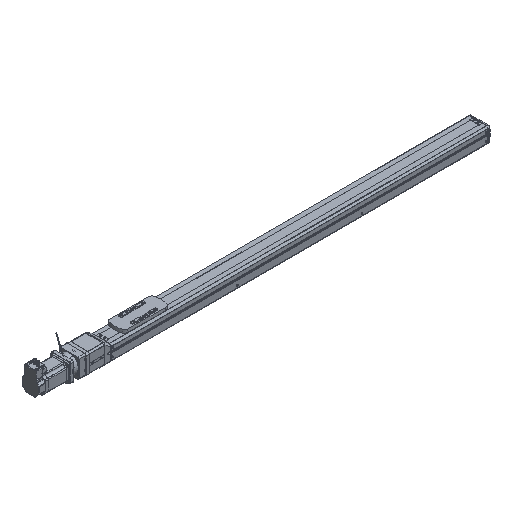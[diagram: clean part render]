
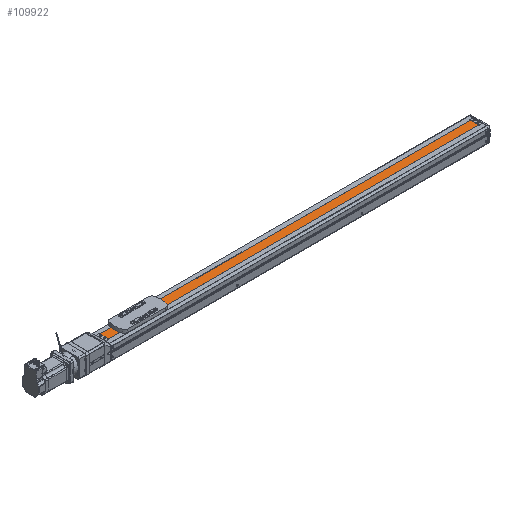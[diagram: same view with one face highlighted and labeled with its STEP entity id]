
A CAD part, isometric view. The second image highlights one B-rep face of the part: STEP entity #109922.
In plain terms, the highlighted planar face has unit normal (0, 0, 1) as drawn and (0, 1, 0) by its records, which use the part's own axes.
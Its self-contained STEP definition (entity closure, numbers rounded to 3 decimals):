
#109922 = ADVANCED_FACE('',(#109923),#109937,.T.);
#109923 = FACE_BOUND('',#109924,.T.);
#109924 = EDGE_LOOP('',(#109925,#109960,#109988,#110016));
#109925 = ORIENTED_EDGE('',*,*,#109926,.F.);
#109926 = EDGE_CURVE('',#109927,#109929,#109931,.T.);
#109927 = VERTEX_POINT('',#109928);
#109928 = CARTESIAN_POINT('',(-1180.5,18.,-13.));
#109929 = VERTEX_POINT('',#109930);
#109930 = CARTESIAN_POINT('',(-21.5,18.,-13.));
#109931 = SURFACE_CURVE('',#109932,(#109936,#109948),.PCURVE_S1.);
#109932 = LINE('',#109933,#109934);
#109933 = CARTESIAN_POINT('',(-1180.5,18.,-13.));
#109934 = VECTOR('',#109935,1.);
#109935 = DIRECTION('',(1.,0.,0.));
#109936 = PCURVE('',#109937,#109942);
#109937 = PLANE('',#109938);
#109938 = AXIS2_PLACEMENT_3D('',#109939,#109940,#109941);
#109939 = CARTESIAN_POINT('',(-1190.5,18.,-26.583));
#109940 = DIRECTION('',(0.,1.,0.));
#109941 = DIRECTION('',(0.,-0.,1.));
#109942 = DEFINITIONAL_REPRESENTATION('',(#109943),#109947);
#109943 = LINE('',#109944,#109945);
#109944 = CARTESIAN_POINT('',(13.583,10.));
#109945 = VECTOR('',#109946,1.);
#109946 = DIRECTION('',(0.,1.));
#109947 = ( GEOMETRIC_REPRESENTATION_CONTEXT(2) 
PARAMETRIC_REPRESENTATION_CONTEXT() REPRESENTATION_CONTEXT('2D SPACE',''
  ) );
#109948 = PCURVE('',#109949,#109954);
#109949 = PLANE('',#109950);
#109950 = AXIS2_PLACEMENT_3D('',#109951,#109952,#109953);
#109951 = CARTESIAN_POINT('',(-1180.5,18.,-13.));
#109952 = DIRECTION('',(0.,0.,1.));
#109953 = DIRECTION('',(1.,0.,-0.));
#109954 = DEFINITIONAL_REPRESENTATION('',(#109955),#109959);
#109955 = LINE('',#109956,#109957);
#109956 = CARTESIAN_POINT('',(0.,0.));
#109957 = VECTOR('',#109958,1.);
#109958 = DIRECTION('',(1.,0.));
#109959 = ( GEOMETRIC_REPRESENTATION_CONTEXT(2) 
PARAMETRIC_REPRESENTATION_CONTEXT() REPRESENTATION_CONTEXT('2D SPACE',''
  ) );
#109960 = ORIENTED_EDGE('',*,*,#109961,.T.);
#109961 = EDGE_CURVE('',#109927,#109962,#109964,.T.);
#109962 = VERTEX_POINT('',#109963);
#109963 = CARTESIAN_POINT('',(-1180.5,18.,13.));
#109964 = SURFACE_CURVE('',#109965,(#109969,#109976),.PCURVE_S1.);
#109965 = LINE('',#109966,#109967);
#109966 = CARTESIAN_POINT('',(-1180.5,18.,-26.583));
#109967 = VECTOR('',#109968,1.);
#109968 = DIRECTION('',(0.,0.,1.));
#109969 = PCURVE('',#109937,#109970);
#109970 = DEFINITIONAL_REPRESENTATION('',(#109971),#109975);
#109971 = LINE('',#109972,#109973);
#109972 = CARTESIAN_POINT('',(0.,10.));
#109973 = VECTOR('',#109974,1.);
#109974 = DIRECTION('',(1.,0.));
#109975 = ( GEOMETRIC_REPRESENTATION_CONTEXT(2) 
PARAMETRIC_REPRESENTATION_CONTEXT() REPRESENTATION_CONTEXT('2D SPACE',''
  ) );
#109976 = PCURVE('',#109977,#109982);
#109977 = PLANE('',#109978);
#109978 = AXIS2_PLACEMENT_3D('',#109979,#109980,#109981);
#109979 = CARTESIAN_POINT('',(-1180.5,0.,0.));
#109980 = DIRECTION('',(1.,0.,0.));
#109981 = DIRECTION('',(0.,0.,-1.));
#109982 = DEFINITIONAL_REPRESENTATION('',(#109983),#109987);
#109983 = LINE('',#109984,#109985);
#109984 = CARTESIAN_POINT('',(26.583,18.));
#109985 = VECTOR('',#109986,1.);
#109986 = DIRECTION('',(-1.,0.));
#109987 = ( GEOMETRIC_REPRESENTATION_CONTEXT(2) 
PARAMETRIC_REPRESENTATION_CONTEXT() REPRESENTATION_CONTEXT('2D SPACE',''
  ) );
#109988 = ORIENTED_EDGE('',*,*,#109989,.T.);
#109989 = EDGE_CURVE('',#109962,#109990,#109992,.T.);
#109990 = VERTEX_POINT('',#109991);
#109991 = CARTESIAN_POINT('',(-21.5,18.,13.));
#109992 = SURFACE_CURVE('',#109993,(#109997,#110004),.PCURVE_S1.);
#109993 = LINE('',#109994,#109995);
#109994 = CARTESIAN_POINT('',(-1180.5,18.,13.));
#109995 = VECTOR('',#109996,1.);
#109996 = DIRECTION('',(1.,0.,0.));
#109997 = PCURVE('',#109937,#109998);
#109998 = DEFINITIONAL_REPRESENTATION('',(#109999),#110003);
#109999 = LINE('',#110000,#110001);
#110000 = CARTESIAN_POINT('',(39.583,10.));
#110001 = VECTOR('',#110002,1.);
#110002 = DIRECTION('',(0.,1.));
#110003 = ( GEOMETRIC_REPRESENTATION_CONTEXT(2) 
PARAMETRIC_REPRESENTATION_CONTEXT() REPRESENTATION_CONTEXT('2D SPACE',''
  ) );
#110004 = PCURVE('',#110005,#110010);
#110005 = PLANE('',#110006);
#110006 = AXIS2_PLACEMENT_3D('',#110007,#110008,#110009);
#110007 = CARTESIAN_POINT('',(-1180.5,15.,13.));
#110008 = DIRECTION('',(0.,0.,-1.));
#110009 = DIRECTION('',(-1.,0.,0.));
#110010 = DEFINITIONAL_REPRESENTATION('',(#110011),#110015);
#110011 = LINE('',#110012,#110013);
#110012 = CARTESIAN_POINT('',(0.,3.));
#110013 = VECTOR('',#110014,1.);
#110014 = DIRECTION('',(-1.,0.));
#110015 = ( GEOMETRIC_REPRESENTATION_CONTEXT(2) 
PARAMETRIC_REPRESENTATION_CONTEXT() REPRESENTATION_CONTEXT('2D SPACE',''
  ) );
#110016 = ORIENTED_EDGE('',*,*,#110017,.T.);
#110017 = EDGE_CURVE('',#109990,#109929,#110018,.T.);
#110018 = SURFACE_CURVE('',#110019,(#110023,#110030),.PCURVE_S1.);
#110019 = LINE('',#110020,#110021);
#110020 = CARTESIAN_POINT('',(-21.5,18.,-26.583));
#110021 = VECTOR('',#110022,1.);
#110022 = DIRECTION('',(0.,0.,-1.));
#110023 = PCURVE('',#109937,#110024);
#110024 = DEFINITIONAL_REPRESENTATION('',(#110025),#110029);
#110025 = LINE('',#110026,#110027);
#110026 = CARTESIAN_POINT('',(0.,1169.));
#110027 = VECTOR('',#110028,1.);
#110028 = DIRECTION('',(-1.,0.));
#110029 = ( GEOMETRIC_REPRESENTATION_CONTEXT(2) 
PARAMETRIC_REPRESENTATION_CONTEXT() REPRESENTATION_CONTEXT('2D SPACE',''
  ) );
#110030 = PCURVE('',#110031,#110036);
#110031 = PLANE('',#110032);
#110032 = AXIS2_PLACEMENT_3D('',#110033,#110034,#110035);
#110033 = CARTESIAN_POINT('',(-21.5,0.,0.));
#110034 = DIRECTION('',(1.,0.,0.));
#110035 = DIRECTION('',(0.,0.,-1.));
#110036 = DEFINITIONAL_REPRESENTATION('',(#110037),#110041);
#110037 = LINE('',#110038,#110039);
#110038 = CARTESIAN_POINT('',(26.583,18.));
#110039 = VECTOR('',#110040,1.);
#110040 = DIRECTION('',(1.,0.));
#110041 = ( GEOMETRIC_REPRESENTATION_CONTEXT(2) 
PARAMETRIC_REPRESENTATION_CONTEXT() REPRESENTATION_CONTEXT('2D SPACE',''
  ) );
